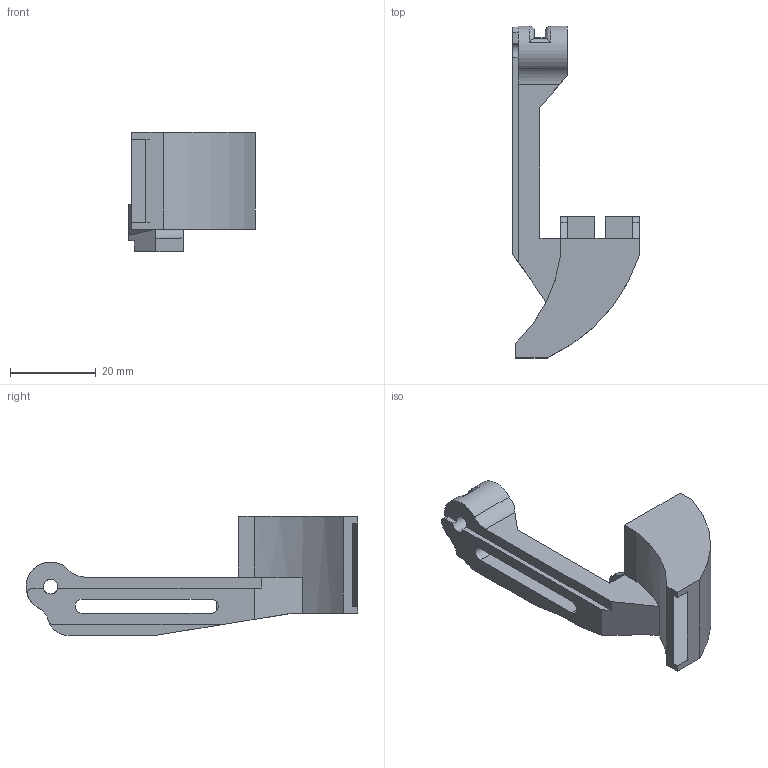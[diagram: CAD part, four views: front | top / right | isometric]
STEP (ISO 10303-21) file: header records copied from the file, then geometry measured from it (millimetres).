
FILE_DESCRIPTION(/* description */ ('Alibre Inc.'),/* implementation_level */ '2;1');
FILE_NAME(/* name */ 'export-1B4CC6F4-71E7-4CC7-BA3D-CF3C0300A2EE',/* time_stamp */ '2020-07-01T12:12:30-07:00',/* author */ (''),/* organization */ (''),/* preprocessor_version */ 'ST-DEVELOPER v17',/* originating_system */ 'Alibre',/* authorisation */ '');
FILE_SCHEMA (('AUTOMOTIVE_DESIGN'));
Length unit declared in the file: millimetre
Bounding box: 29.46 x 77.2 x 27.69 mm (x, y, z)
Volume: 8222.3 mm3; surface area: 7905.2 mm2
Topology: 1 solids, 1 shells, 69 faces, 205 edges, 135 vertices
Faces by surface type: plane 46, cylinder 19, torus 4
Full cylindrical faces by diameter (mm): 3.429 x2
Entity records: 2494 total; most frequent: CARTESIAN_POINT 669, ORIENTED_EDGE 402, DIRECTION 327, EDGE_CURVE 201, VECTOR 138, LINE 138, VERTEX_POINT 133, AXIS2_PLACEMENT_3D 118
